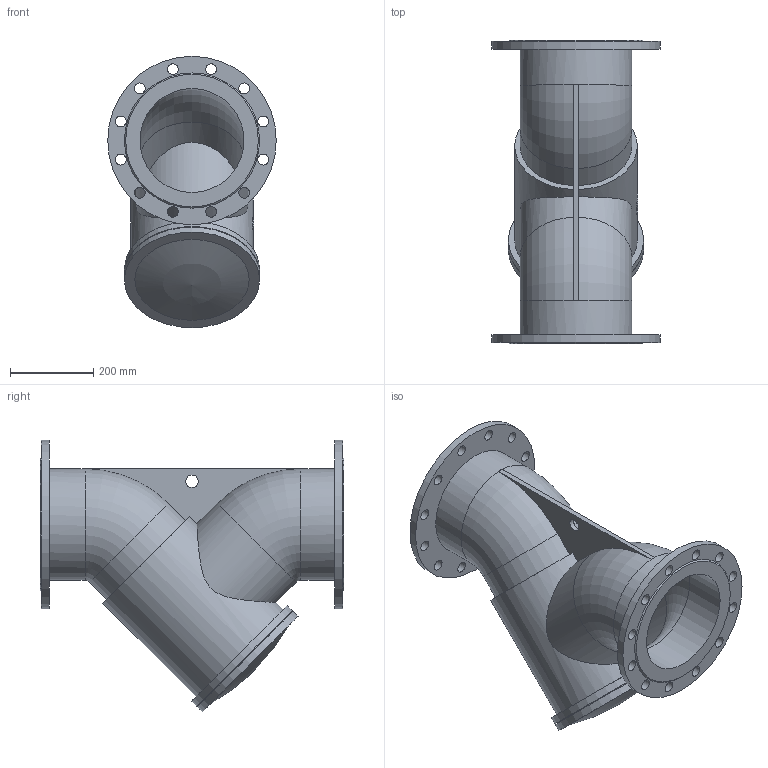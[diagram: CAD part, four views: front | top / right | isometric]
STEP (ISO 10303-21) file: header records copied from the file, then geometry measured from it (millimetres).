
FILE_DESCRIPTION(('STEP AP203'), '1');
FILE_NAME('Ôèëüòð ñåò÷àòûé ôëàíöåâûé 021Y.Z DN250 PN16', '', ('UNSPECIFIED'), ('UNSPECIFIED'), 'ASCON STEP Converter 1.6', 'ASCON Math Kernel', '');
FILE_SCHEMA(('CONFIG_CONTROL_DESIGN'));
Length unit declared in the file: millimetre
Bounding box: 405 x 730 x 652.5 mm (x, y, z)
Volume: 32634418.7 mm3; surface area: 1860116.4 mm2
Topology: 1 solids, 1 shells, 83 faces, 195 edges, 126 vertices
Faces by surface type: cylinder 47, plane 29, torus 4, cone 2, sphere 1
Full cylindrical faces by diameter (mm): 26 x24, 30 x1, 250 x4, 268 x2, 295 x1, 313 x1, 325 x2, 405 x2
Entity records: 4038 total; most frequent: CARTESIAN_POINT 1425, DIRECTION 409, ORIENTED_EDGE 304, EDGE_LOOP 187, AXIS2_PLACEMENT_3D 184, EDGE_CURVE 152, VERTEX_POINT 125, FACE_BOUND 107
